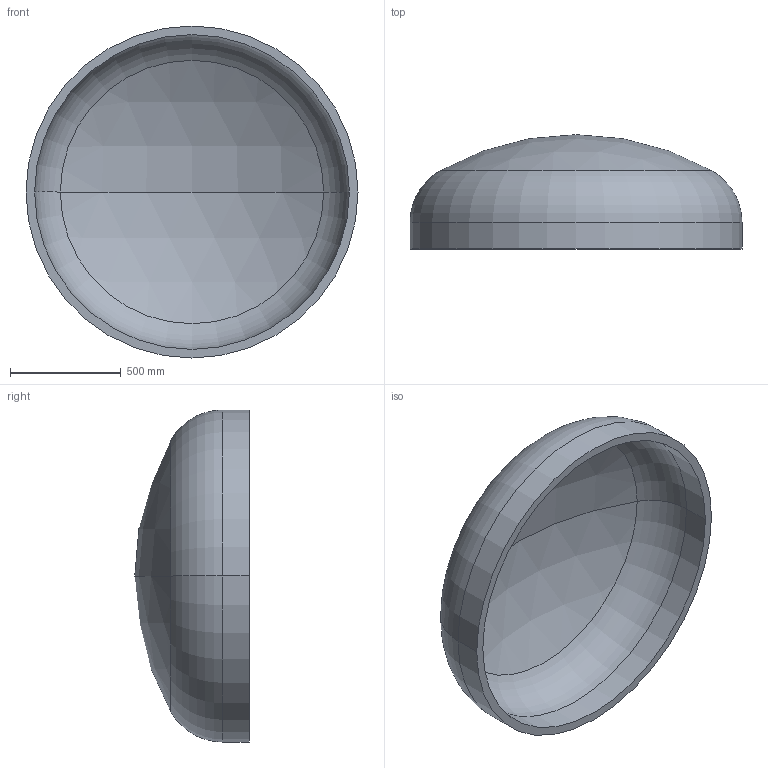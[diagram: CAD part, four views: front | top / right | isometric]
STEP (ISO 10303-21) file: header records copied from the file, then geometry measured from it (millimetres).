
FILE_DESCRIPTION (( 'STEP AP203' ), '1' );
FILE_NAME ('DIN 28013 Korbbogenform_-_Boden DIN 28013 - 1500 x 120 - I - s=39.step', '2016-07-01T10:45:18', ( '' ), ( '' ), 'SwSTEP 2.0', 'SolidWorks 2013', '' );
FILE_SCHEMA (( 'CONFIG_CONTROL_DESIGN' ));
Length unit declared in the file: millimetre
Products named in the file (1): DIN 28013 Korbbogenform_-_Boden DIN 28013 - 1500 x 120 - I - s=39
Bounding box: 1500 x 516.66 x 1500 mm (x, y, z)
Volume: 113654368.4 mm3; surface area: 6010617.8 mm2
Topology: 1 solids, 1 shells, 13 faces, 24 edges, 14 vertices
Faces by surface type: torus 4, cylinder 4, sphere 4, plane 1
Entity records: 407 total; most frequent: DIRECTION 72, CARTESIAN_POINT 52, ORIENTED_EDGE 48, AXIS2_PLACEMENT_3D 34, EDGE_CURVE 24, CIRCLE 20, EDGE_LOOP 14, VERTEX_POINT 14
